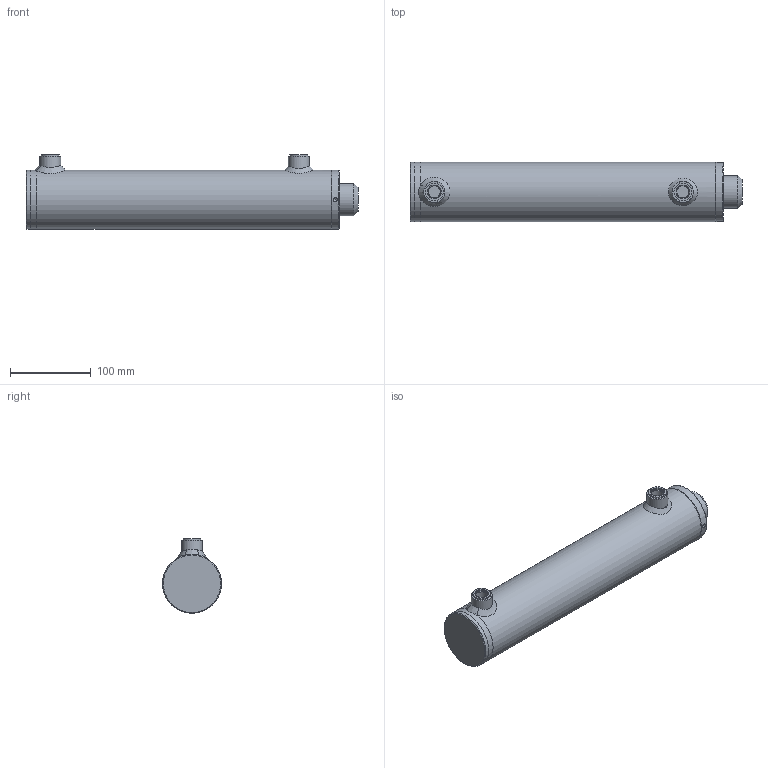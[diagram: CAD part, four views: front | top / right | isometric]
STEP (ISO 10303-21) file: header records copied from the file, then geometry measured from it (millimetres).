
FILE_DESCRIPTION( ( 'Unknown' ), '1' );
FILE_NAME( 'E:/LIBRERIA_3d/CILINDRI/HM0/HM0063400250.stp', 'Unknown', ( 'Unknown' ), ( 'Unknown' ), 'PSStep 17.0.49', 'Unknown', ' ' );
FILE_SCHEMA( ( 'AUTOMOTIVE_DESIGN { 1 0 10303 214 1 1 1 1 }' ) );
Length unit declared in the file: millimetre
Products named in the file (18): CT00063024; CG07306340; STL0630730250-oa4; Saldatura d'angolo 1-oa2; CBS0600000; MAT_PRIMA_TUBO_FT07306300-oa3; Assem1; Saldatura con preparazione 1-oa0; Saldatura d'angolo 1-oa1; CF00063073; CDA0002420; APG0600000; SBL0400630250
Assembly tree (15 placements, depth 3):
  Saldatura d'angolo 1-oa2
  Saldatura d'angolo 1-oa2
  Assem1
    Saldatura con preparazione 1-oa0
    Saldatura con preparazione 1-oa0
    CBS0600000
    CF00063073
    CDA0002420
    APG0600000  x2
    SBL0400630250
    CG07306340
      CG07306340
    CT00063024
      CT00063024
    STL0630730250-oa4
      CBS0600000
      MAT_PRIMA_TUBO_FT07306300-oa3
  Saldatura d'angolo 1-oa1
  Saldatura d'angolo 1-oa1
Bounding box: 410 x 73 x 92 mm (x, y, z)
Volume: 1093544.7 mm3; surface area: 292799.4 mm2
Topology: 16 solids, 16 shells, 202 faces, 410 edges, 253 vertices
Faces by surface type: plane 58, cylinder 55, torus 38, cone 33, bspline 18
Full cylindrical faces by diameter (mm): 4.25 x1, 5 x2, 6 x2, 7 x2, 14.95 x2, 16 x2, 16.6 x2, 22 x2, 23.4 x1, 24 x5, 26 x2, 28.5 x1, 36 x1, 40 x4, 42 x1, 43 x1, 47 x1, 48 x1, 48.6 x1, 58 x1, 58.39 x2, 61.63 x2, 62.9 x1, 63 x1, 63.8 x1, 64 x1, 64.1 x1, 65 x4, 66.376 x1, 68 x1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
Entity records: 8380 total; most frequent: CARTESIAN_POINT 3645, DIRECTION 714, ORIENTED_EDGE 434, AXIS2_PLACEMENT_3D 345, EDGE_LOOP 344, FACE_OUTER_BOUND 277, EDGE_CURVE 217, VERTEX_POINT 196
